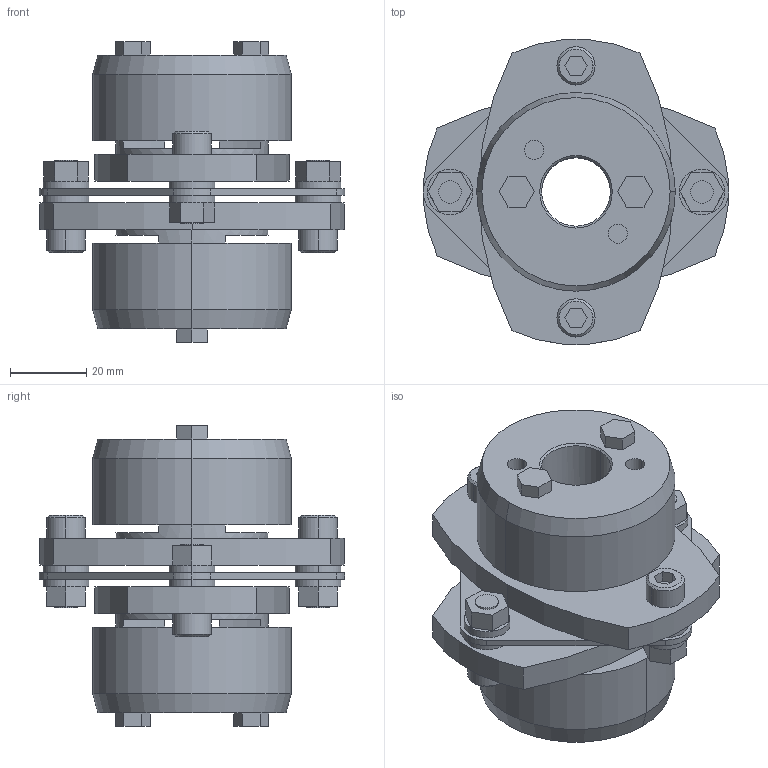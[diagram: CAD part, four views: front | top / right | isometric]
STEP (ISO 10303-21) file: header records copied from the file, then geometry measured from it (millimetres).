
FILE_DESCRIPTION((''),'2;1');
FILE_NAME('LCS-80T7-18×18.stp','2011-09-12T14:50:24',(''),(''),'AutoCAD STEP 2000i','AutoCAD 2000i',', , ');
FILE_SCHEMA(('CONFIG_CONTROL_DESIGN'));
Length unit declared in the file: millimetre
Products named in the file (5): LCS-80T7-17×17; 忣兜1; LC80T7-T017-1; LC80T7-T017; LCS80-ITA
Assembly tree (4 placements, depth 2):
  LCS-80T7-17×17
    忣兜1
    LC80T7-T017-1
    LC80T7-T017
    LCS80-ITA
Bounding box: 80 x 79.95 x 78.75 mm (x, y, z)
Volume: 142318.2 mm3; surface area: 41163.6 mm2
Topology: 1 solids, 1 shells, 218 faces, 532 edges, 348 vertices
Faces by surface type: plane 118, cylinder 80, cone 20
Entity records: 6619 total; most frequent: DIRECTION 1174, CARTESIAN_POINT 1103, ORIENTED_EDGE 1064, EDGE_CURVE 532, AXIS2_PLACEMENT_3D 419, VERTEX_POINT 348, VECTOR 336, LINE 336
